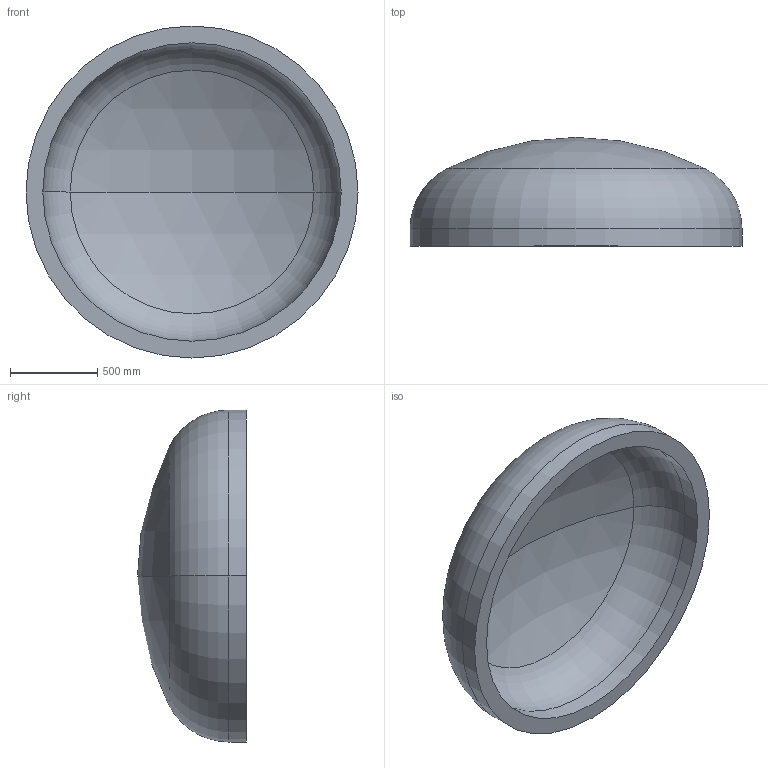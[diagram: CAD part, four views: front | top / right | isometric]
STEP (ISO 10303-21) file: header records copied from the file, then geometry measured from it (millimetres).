
FILE_DESCRIPTION (( 'STEP AP203' ), '1' );
FILE_NAME ('DIN 28013 Korbbogenform_-_Boden DIN 28013 - 1900 x 100 - I - s=96.step', '2016-07-01T13:24:29', ( '' ), ( '' ), 'SwSTEP 2.0', 'SolidWorks 2013', '' );
FILE_SCHEMA (( 'CONFIG_CONTROL_DESIGN' ));
Length unit declared in the file: millimetre
Products named in the file (1): DIN 28013 Korbbogenform_-_Boden DIN 28013 - 1900 x 100 - I - s=96
Bounding box: 1900 x 622.93 x 1900 mm (x, y, z)
Volume: 407051221.6 mm3; surface area: 9043607 mm2
Topology: 1 solids, 1 shells, 13 faces, 24 edges, 14 vertices
Faces by surface type: torus 4, cylinder 4, sphere 4, plane 1
Entity records: 407 total; most frequent: DIRECTION 72, CARTESIAN_POINT 52, ORIENTED_EDGE 48, AXIS2_PLACEMENT_3D 34, EDGE_CURVE 24, CIRCLE 20, VERTEX_POINT 14, EDGE_LOOP 14
